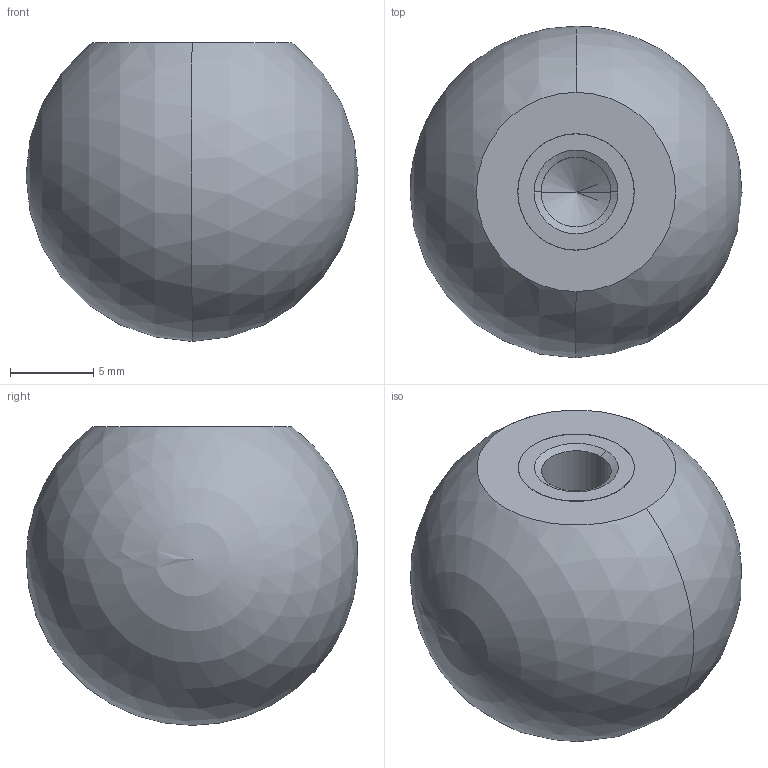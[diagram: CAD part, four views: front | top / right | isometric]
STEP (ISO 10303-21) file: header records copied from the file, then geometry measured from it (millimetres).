
FILE_DESCRIPTION (( 'STEP AP214' ), '1' );
FILE_NAME ('319-KU-20-M5-E.step', '2023-12-18T11:09:55', ( '' ), ( '' ), 'SwSTEP 2.0', 'SolidWorks 2022', '' );
FILE_SCHEMA (( 'AUTOMOTIVE_DESIGN' ));
Length unit declared in the file: millimetre
Products named in the file (1): 319-KU-20-M5-E
Bounding box: 20 x 19.97 x 18 mm (x, y, z)
Volume: 3926.4 mm3; surface area: 1376.5 mm2
Topology: 1 solids, 1 shells, 15 faces, 35 edges, 21 vertices
Faces by surface type: cylinder 6, cone 4, plane 3, sphere 2
Entity records: 495 total; most frequent: DIRECTION 78, CARTESIAN_POINT 62, ORIENTED_EDGE 56, AXIS2_PLACEMENT_3D 34, EDGE_CURVE 28, CIRCLE 18, VERTEX_POINT 18, EDGE_LOOP 18
